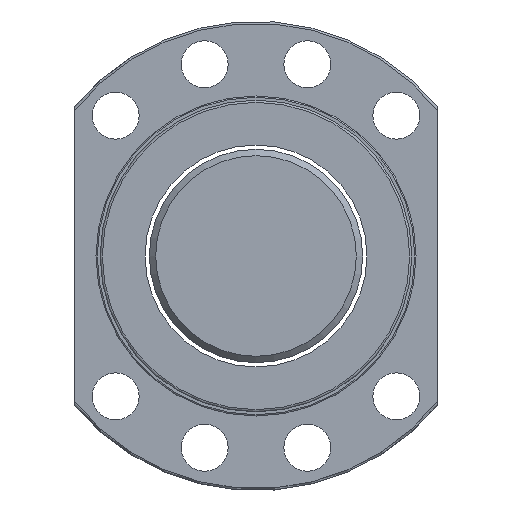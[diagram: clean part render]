
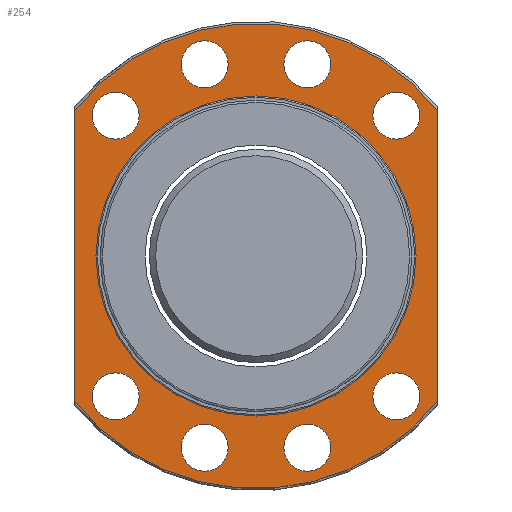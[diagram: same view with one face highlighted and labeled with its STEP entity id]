
A CAD part, left-side view. The second image highlights one B-rep face of the part: STEP entity #254.
In plain terms, the highlighted planar face has unit normal (-1, 0, 0).
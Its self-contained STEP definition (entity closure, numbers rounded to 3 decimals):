
#110=PLANE('',#824);
#134=FACE_BOUND('',#350,.T.);
#135=FACE_BOUND('',#351,.T.);
#136=FACE_BOUND('',#352,.T.);
#137=FACE_BOUND('',#353,.T.);
#138=FACE_BOUND('',#354,.T.);
#139=FACE_BOUND('',#355,.T.);
#140=FACE_BOUND('',#356,.T.);
#141=FACE_BOUND('',#357,.T.);
#142=FACE_BOUND('',#358,.T.);
#237=LINE('',#1333,#245);
#238=LINE('',#1334,#246);
#245=VECTOR('',#955,1.);
#246=VECTOR('',#956,1.);
#254=ADVANCED_FACE('',(#316,#134,#135,#136,#137,#138,#139,#140,#141,#142),
#110,.T.);
#316=FACE_OUTER_BOUND('',#349,.T.);
#349=EDGE_LOOP('',(#535,#536,#537,#538));
#350=EDGE_LOOP('',(#539));
#351=EDGE_LOOP('',(#540));
#352=EDGE_LOOP('',(#541));
#353=EDGE_LOOP('',(#542));
#354=EDGE_LOOP('',(#543));
#355=EDGE_LOOP('',(#544));
#356=EDGE_LOOP('',(#545));
#357=EDGE_LOOP('',(#546));
#358=EDGE_LOOP('',(#547));
#444=CIRCLE('',#796,54.5);
#457=CIRCLE('',#813,54.5);
#458=CIRCLE('',#815,37.5);
#459=CIRCLE('',#816,5.5);
#460=CIRCLE('',#817,5.5);
#461=CIRCLE('',#818,5.5);
#462=CIRCLE('',#819,5.5);
#463=CIRCLE('',#820,5.5);
#464=CIRCLE('',#821,5.5);
#465=CIRCLE('',#822,5.5);
#466=CIRCLE('',#823,5.5);
#535=ORIENTED_EDGE('',*,*,#740,.F.);
#536=ORIENTED_EDGE('',*,*,#718,.F.);
#537=ORIENTED_EDGE('',*,*,#741,.T.);
#538=ORIENTED_EDGE('',*,*,#738,.F.);
#539=ORIENTED_EDGE('',*,*,#742,.T.);
#540=ORIENTED_EDGE('',*,*,#743,.F.);
#541=ORIENTED_EDGE('',*,*,#744,.F.);
#542=ORIENTED_EDGE('',*,*,#745,.F.);
#543=ORIENTED_EDGE('',*,*,#746,.F.);
#544=ORIENTED_EDGE('',*,*,#747,.F.);
#545=ORIENTED_EDGE('',*,*,#748,.F.);
#546=ORIENTED_EDGE('',*,*,#749,.F.);
#547=ORIENTED_EDGE('',*,*,#750,.F.);
#650=VERTEX_POINT('',#1196);
#651=VERTEX_POINT('',#1216);
#667=VERTEX_POINT('',#1310);
#668=VERTEX_POINT('',#1312);
#669=VERTEX_POINT('',#1336);
#670=VERTEX_POINT('',#1338);
#671=VERTEX_POINT('',#1340);
#672=VERTEX_POINT('',#1342);
#673=VERTEX_POINT('',#1344);
#674=VERTEX_POINT('',#1346);
#675=VERTEX_POINT('',#1348);
#676=VERTEX_POINT('',#1350);
#677=VERTEX_POINT('',#1352);
#718=EDGE_CURVE('',#651,#650,#444,.T.);
#738=EDGE_CURVE('',#667,#668,#457,.T.);
#740=EDGE_CURVE('',#650,#667,#237,.T.);
#741=EDGE_CURVE('',#651,#668,#238,.T.);
#742=EDGE_CURVE('',#669,#669,#458,.T.);
#743=EDGE_CURVE('',#670,#670,#459,.T.);
#744=EDGE_CURVE('',#671,#671,#460,.T.);
#745=EDGE_CURVE('',#672,#672,#461,.T.);
#746=EDGE_CURVE('',#673,#673,#462,.T.);
#747=EDGE_CURVE('',#674,#674,#463,.T.);
#748=EDGE_CURVE('',#675,#675,#464,.T.);
#749=EDGE_CURVE('',#676,#676,#465,.T.);
#750=EDGE_CURVE('',#677,#677,#466,.T.);
#796=AXIS2_PLACEMENT_3D('',#1217,#913,#914);
#813=AXIS2_PLACEMENT_3D('',#1311,#951,#952);
#815=AXIS2_PLACEMENT_3D('',#1335,#957,#958);
#816=AXIS2_PLACEMENT_3D('',#1337,#959,#960);
#817=AXIS2_PLACEMENT_3D('',#1339,#961,#962);
#818=AXIS2_PLACEMENT_3D('',#1341,#963,#964);
#819=AXIS2_PLACEMENT_3D('',#1343,#965,#966);
#820=AXIS2_PLACEMENT_3D('',#1345,#967,#968);
#821=AXIS2_PLACEMENT_3D('',#1347,#969,#970);
#822=AXIS2_PLACEMENT_3D('',#1349,#971,#972);
#823=AXIS2_PLACEMENT_3D('',#1351,#973,#974);
#824=AXIS2_PLACEMENT_3D('',#1353,#975,#976);
#913=DIRECTION('',(1.,0.,0.));
#914=DIRECTION('',(0.,1.,0.));
#951=DIRECTION('',(1.,0.,0.));
#952=DIRECTION('',(0.,1.,0.));
#955=DIRECTION('',(0.,0.,1.));
#956=DIRECTION('',(0.,0.,1.));
#957=DIRECTION('',(1.,0.,0.));
#958=DIRECTION('',(0.,1.,0.));
#959=DIRECTION('',(-1.,0.,0.));
#960=DIRECTION('',(0.,-1.,0.));
#961=DIRECTION('',(-1.,0.,0.));
#962=DIRECTION('',(0.,-1.,0.));
#963=DIRECTION('',(-1.,0.,0.));
#964=DIRECTION('',(0.,-1.,0.));
#965=DIRECTION('',(-1.,0.,0.));
#966=DIRECTION('',(0.,-1.,0.));
#967=DIRECTION('',(-1.,0.,0.));
#968=DIRECTION('',(0.,-1.,0.));
#969=DIRECTION('',(-1.,0.,0.));
#970=DIRECTION('',(0.,-1.,0.));
#971=DIRECTION('',(-1.,0.,0.));
#972=DIRECTION('',(0.,-1.,0.));
#973=DIRECTION('',(-1.,0.,0.));
#974=DIRECTION('',(0.,-1.,0.));
#975=DIRECTION('',(-1.,0.,0.));
#976=DIRECTION('',(0.,-1.,0.));
#1196=CARTESIAN_POINT('',(-35.,42.5,-34.117));
#1216=CARTESIAN_POINT('',(-35.,-42.5,-34.117));
#1217=CARTESIAN_POINT('',(-35.,0.,0.));
#1310=CARTESIAN_POINT('',(-35.,42.5,34.117));
#1311=CARTESIAN_POINT('',(-35.,0.,0.));
#1312=CARTESIAN_POINT('',(-35.,-42.5,34.117));
#1333=CARTESIAN_POINT('',(-35.,42.5,-81.808));
#1334=CARTESIAN_POINT('',(-35.,-42.5,-60.076));
#1335=CARTESIAN_POINT('',(-35.,0.,0.));
#1336=CARTESIAN_POINT('',(-35.,37.5,0.));
#1337=CARTESIAN_POINT('',(-35.,12.035,44.916));
#1338=CARTESIAN_POINT('',(-35.,6.535,44.916));
#1339=CARTESIAN_POINT('',(-35.,-12.035,44.916));
#1340=CARTESIAN_POINT('',(-35.,-17.535,44.916));
#1341=CARTESIAN_POINT('',(-35.,-12.035,-44.916));
#1342=CARTESIAN_POINT('',(-35.,-17.535,-44.916));
#1343=CARTESIAN_POINT('',(-35.,12.035,-44.916));
#1344=CARTESIAN_POINT('',(-35.,6.535,-44.916));
#1345=CARTESIAN_POINT('',(-35.,-32.881,32.881));
#1346=CARTESIAN_POINT('',(-35.,-38.381,32.881));
#1347=CARTESIAN_POINT('',(-35.,32.88,32.881));
#1348=CARTESIAN_POINT('',(-35.,27.38,32.881));
#1349=CARTESIAN_POINT('',(-35.,-32.881,-32.881));
#1350=CARTESIAN_POINT('',(-35.,-38.381,-32.881));
#1351=CARTESIAN_POINT('',(-35.,32.88,-32.881));
#1352=CARTESIAN_POINT('',(-35.,27.38,-32.881));
#1353=CARTESIAN_POINT('',(-35.,46.,0.));
